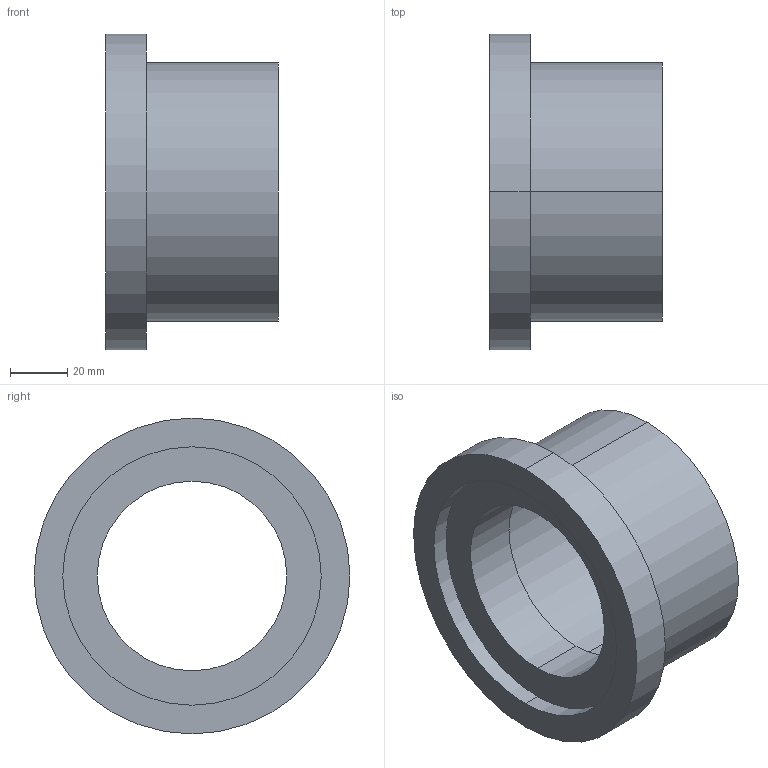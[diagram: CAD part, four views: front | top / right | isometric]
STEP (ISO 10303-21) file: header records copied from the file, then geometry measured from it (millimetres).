
FILE_DESCRIPTION (( 'STEP AP203' ), '1' );
FILE_NAME ('2 1-2(2 1-2鋼管用).STEP', '2014-07-15T00:44:26', ( 'jameswang' ), ( '' ), 'SwSTEP 2.0', 'SolidWorks 2013', '' );
FILE_SCHEMA (( 'CONFIG_CONTROL_DESIGN' ));
Length unit declared in the file: millimetre
Products named in the file (1): 2 1-2(2 1-2鋼管用)
Bounding box: 60 x 110 x 110 mm (x, y, z)
Volume: 158088.4 mm3; surface area: 43725.4 mm2
Topology: 1 solids, 1 shells, 19 faces, 38 edges, 24 vertices
Faces by surface type: cylinder 10, plane 5, cone 2, torus 2
Entity records: 587 total; most frequent: DIRECTION 104, CARTESIAN_POINT 82, ORIENTED_EDGE 76, AXIS2_PLACEMENT_3D 46, EDGE_CURVE 38, CIRCLE 26, EDGE_LOOP 24, VERTEX_POINT 24
